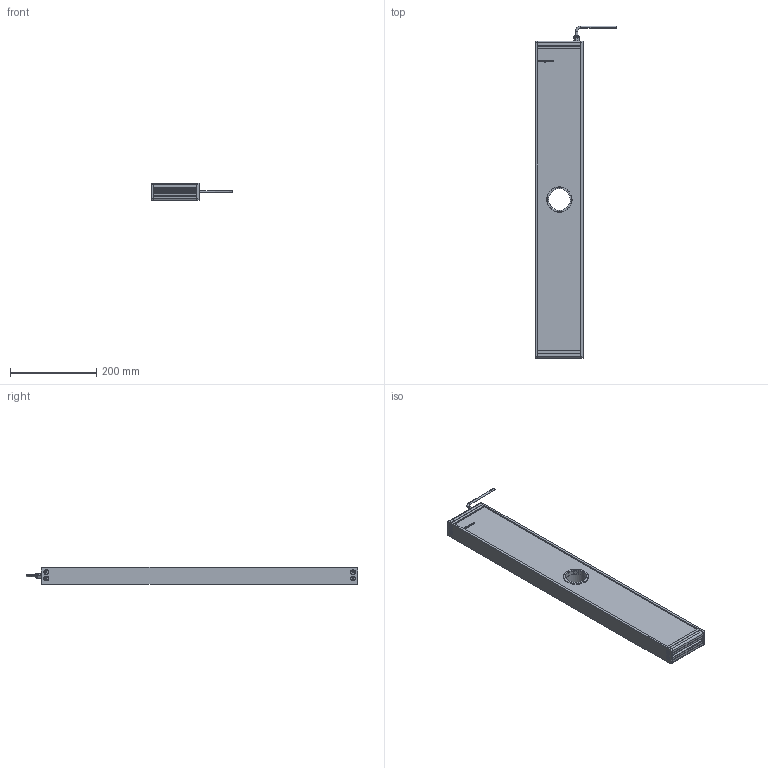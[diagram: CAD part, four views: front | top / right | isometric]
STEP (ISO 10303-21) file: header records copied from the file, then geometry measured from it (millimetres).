
FILE_DESCRIPTION (( 'STEP AP214' ), '1' );
FILE_NAME ('EFFI-FD-100T-700-M12 Ø50.STEP', '2021-07-02T12:00:17', ( '' ), ( '' ), 'SwSTEP 2.0', 'SolidWorks 2021', '' );
FILE_SCHEMA (( 'AUTOMOTIVE_DESIGN' ));
Length unit declared in the file: millimetre
Products named in the file (11): 001039; profile modif_lg 99.5 mm; bord fin modif_lg 436.5 mm; 000590; 003776; EFFI-FD-100T-700-M12 Ø50; cordon_Avec cable; 001040; Assemblage Ø50; Pièce2^EFFI-FD-XXXT-YYY-M12 Ø50
Assembly tree (20 placements, depth 3):
  EFFI-FD-100T-700-M12 Ø50
    profile modif_lg 99.5 mm
    bord fin modif_lg 436.5 mm  x2
    Pièce2^EFFI-FD-XXXT-YYY-M12 Ø50
    profile modif_lg 99.5 mm
    003776  x8
    cordon_Avec cable
    Assemblage Ø50
      001039
      001040
      000590  x3
Bounding box: 187.13 x 771.15 x 41 mm (x, y, z)
Volume: 2780741.9 mm3; surface area: 396881.3 mm2
Topology: 18 solids, 24 shells, 997 faces, 2503 edges, 1569 vertices
Faces by surface type: plane 391, cylinder 231, bspline 180, cone 152, torus 35, sphere 8
Entity records: 25439 total; most frequent: CARTESIAN_POINT 8620, ORIENTED_EDGE 3290, DIRECTION 3029, EDGE_CURVE 1649, VERTEX_POINT 1066, AXIS2_PLACEMENT_3D 1021, LINE 987, VECTOR 987
